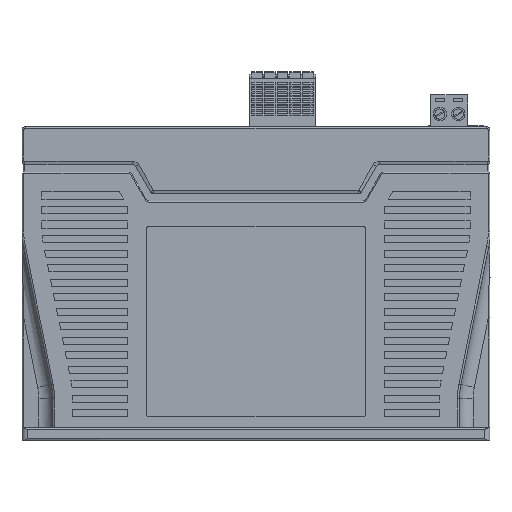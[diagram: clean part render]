
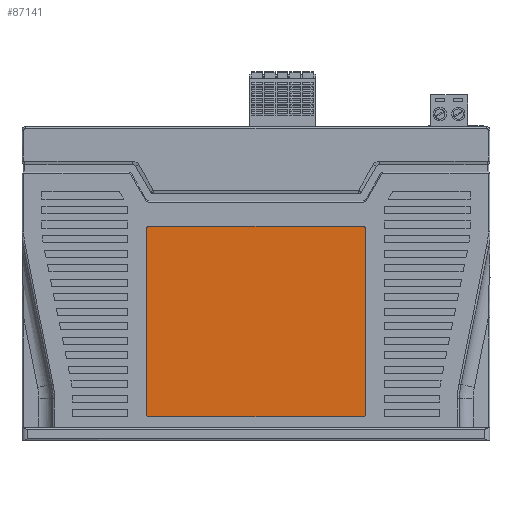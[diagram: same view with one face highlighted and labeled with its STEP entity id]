
A CAD part, left-side view. The second image highlights one B-rep face of the part: STEP entity #87141.
In plain terms, the highlighted planar face has unit normal (-1, 0, 0).
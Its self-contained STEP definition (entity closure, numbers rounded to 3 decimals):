
#24383=DIRECTION('',(0.,-1.,0.));
#24384=VECTOR('',#24383,58.6);
#24385=CARTESIAN_POINT('',(-29.8,29.3,59.));
#24386=LINE('',#24385,#24384);
#24387=CARTESIAN_POINT('',(-29.8,-29.3,58.));
#24388=DIRECTION('',(1.,0.,0.));
#24389=DIRECTION('',(0.,0.,1.));
#24390=AXIS2_PLACEMENT_3D('',#24387,#24388,#24389);
#24392=DIRECTION('',(0.,0.,-1.));
#24393=VECTOR('',#24392,50.5);
#24394=CARTESIAN_POINT('',(-29.8,-30.3,58.));
#24395=LINE('',#24394,#24393);
#24396=CARTESIAN_POINT('',(-29.8,-29.3,7.5));
#24397=DIRECTION('',(1.,0.,0.));
#24398=DIRECTION('',(0.,-1.,0.));
#24399=AXIS2_PLACEMENT_3D('',#24396,#24397,#24398);
#24401=DIRECTION('',(0.,1.,0.));
#24402=VECTOR('',#24401,58.6);
#24403=CARTESIAN_POINT('',(-29.8,-29.3,6.5));
#24404=LINE('',#24403,#24402);
#24405=CARTESIAN_POINT('',(-29.8,29.3,7.5));
#24406=DIRECTION('',(1.,0.,0.));
#24407=DIRECTION('',(0.,0.,-1.));
#24408=AXIS2_PLACEMENT_3D('',#24405,#24406,#24407);
#24410=DIRECTION('',(0.,0.,1.));
#24411=VECTOR('',#24410,50.5);
#24412=CARTESIAN_POINT('',(-29.8,30.3,7.5));
#24413=LINE('',#24412,#24411);
#24414=CARTESIAN_POINT('',(-29.8,29.3,58.));
#24415=DIRECTION('',(1.,0.,0.));
#24416=DIRECTION('',(0.,1.,0.));
#24417=AXIS2_PLACEMENT_3D('',#24414,#24415,#24416);
#37101=CARTESIAN_POINT('',(-29.8,29.3,6.5));
#37102=VERTEX_POINT('',#37101);
#37103=CARTESIAN_POINT('',(-29.8,-29.3,6.5));
#37104=VERTEX_POINT('',#37103);
#37105=CARTESIAN_POINT('',(-29.8,30.3,7.5));
#37106=VERTEX_POINT('',#37105);
#37107=CARTESIAN_POINT('',(-29.8,29.3,59.));
#37108=CARTESIAN_POINT('',(-29.8,-29.3,59.));
#37109=VERTEX_POINT('',#37107);
#37110=VERTEX_POINT('',#37108);
#37111=CARTESIAN_POINT('',(-29.8,-30.3,58.));
#37112=VERTEX_POINT('',#37111);
#37113=CARTESIAN_POINT('',(-29.8,-30.3,7.5));
#37114=VERTEX_POINT('',#37113);
#37115=CARTESIAN_POINT('',(-29.8,30.3,58.));
#37116=VERTEX_POINT('',#37115);
#87120=CARTESIAN_POINT('',(-29.8,0.,0.));
#87121=DIRECTION('',(-1.,0.,0.));
#87122=DIRECTION('',(0.,0.,1.));
#87123=AXIS2_PLACEMENT_3D('',#87120,#87121,#87122);
#87124=PLANE('',#87123);
#87126=ORIENTED_EDGE('',*,*,#87125,.T.);
#87128=ORIENTED_EDGE('',*,*,#87127,.T.);
#87130=ORIENTED_EDGE('',*,*,#87129,.T.);
#87132=ORIENTED_EDGE('',*,*,#87131,.T.);
#87133=ORIENTED_EDGE('',*,*,#87085,.T.);
#87134=ORIENTED_EDGE('',*,*,#87104,.T.);
#87136=ORIENTED_EDGE('',*,*,#87135,.T.);
#87138=ORIENTED_EDGE('',*,*,#87137,.T.);
#87139=EDGE_LOOP('',(#87126,#87128,#87130,#87132,#87133,#87134,#87136,#87138));
#87140=FACE_OUTER_BOUND('',#87139,.F.);
#87141=ADVANCED_FACE('',(#87140),#87124,.T.);
#24391=CIRCLE('',#24390,1.);
#24400=CIRCLE('',#24399,1.);
#24409=CIRCLE('',#24408,1.);
#24418=CIRCLE('',#24417,1.);
#87085=EDGE_CURVE('',#37104,#37102,#24404,.T.);
#87104=EDGE_CURVE('',#37102,#37106,#24409,.T.);
#87125=EDGE_CURVE('',#37109,#37110,#24386,.T.);
#87127=EDGE_CURVE('',#37110,#37112,#24391,.T.);
#87129=EDGE_CURVE('',#37112,#37114,#24395,.T.);
#87131=EDGE_CURVE('',#37114,#37104,#24400,.T.);
#87135=EDGE_CURVE('',#37106,#37116,#24413,.T.);
#87137=EDGE_CURVE('',#37116,#37109,#24418,.T.);
